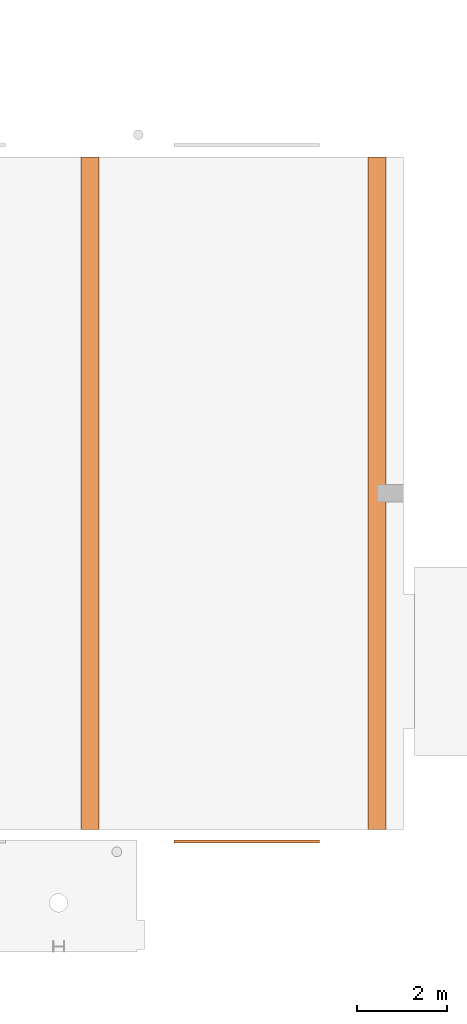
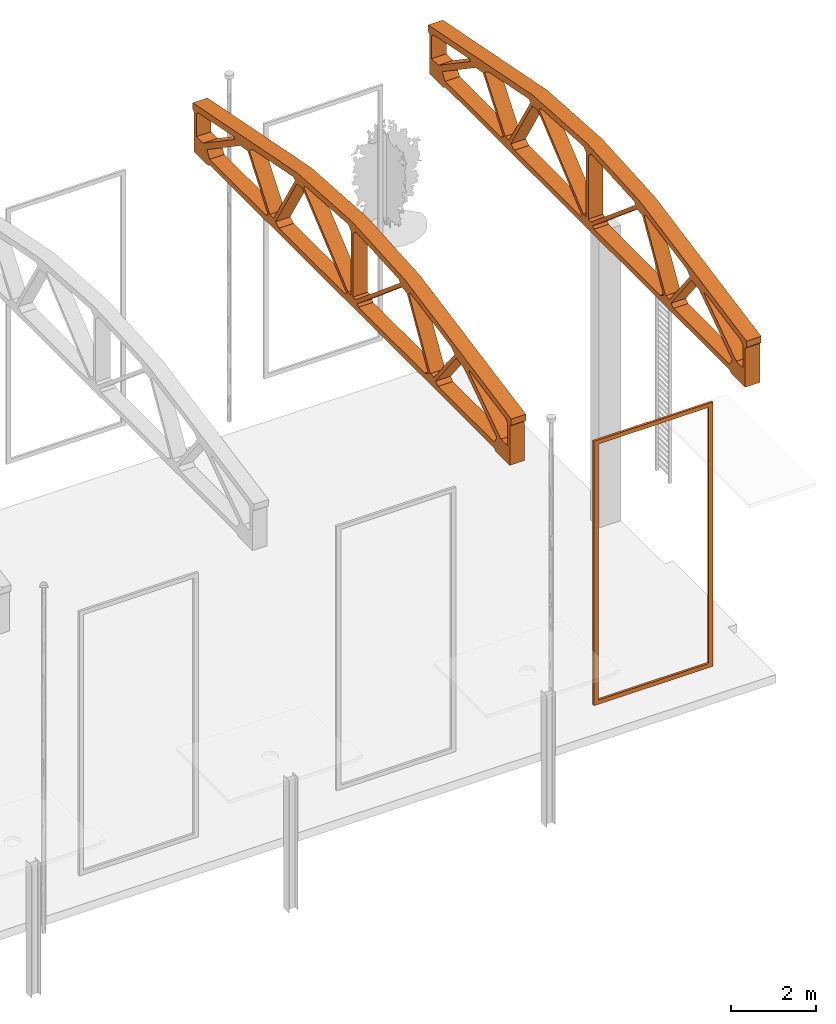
# One storey, part 13 of 14: 3 proxies.
"""IFC2X3 building model written with IfcOpenShell, lengths in millimetres."""

from ifc_helpers import new_model, entity, si_unit, converted_unit, derived_unit, direction, frame, origin, place, context, subcontext, project, spatial, polyline, outline, extrude, source, transform, mapped, material, type_object, type_shapes, element, save


model = new_model("IFC2X3")

# Units and contexts
model_context = context("Model", 3, precision=0.01, world=origin(), true_north=direction((6.12303176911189e-17, 1.0)))
body_context = subcontext(model_context, "Body", "Model", "MODEL_VIEW")
ifc_project = project(units=[si_unit("LENGTHUNIT", "METRE", prefix="MILLI"), si_unit("AREAUNIT", "SQUARE_METRE"), si_unit("VOLUMEUNIT", "CUBIC_METRE"), converted_unit("PLANEANGLEUNIT", "DEGREE", entity("IfcRatioMeasure", 0.0174532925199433), si_unit("PLANEANGLEUNIT", "RADIAN"), dimensions=[0, 0, 0, 0, 0, 0, 0]), si_unit("MASSUNIT", "GRAM", prefix="KILO"), derived_unit("MASSDENSITYUNIT", [(si_unit("MASSUNIT", "GRAM", prefix="KILO"), 1), (si_unit("LENGTHUNIT", "METRE"), -3)]), si_unit("TIMEUNIT", "SECOND"), si_unit("FREQUENCYUNIT", "HERTZ"), si_unit("THERMODYNAMICTEMPERATUREUNIT", "DEGREE_CELSIUS"), derived_unit("THERMALTRANSMITTANCEUNIT", [(si_unit("MASSUNIT", "GRAM", prefix="KILO"), 1), (si_unit("THERMODYNAMICTEMPERATUREUNIT", "KELVIN"), -1), (si_unit("TIMEUNIT", "SECOND"), -3)]), derived_unit("VOLUMETRICFLOWRATEUNIT", [(si_unit("LENGTHUNIT", "METRE"), 3), (si_unit("TIMEUNIT", "SECOND"), -1)]), si_unit("ELECTRICCURRENTUNIT", "AMPERE"), si_unit("ELECTRICVOLTAGEUNIT", "VOLT"), si_unit("POWERUNIT", "WATT"), si_unit("FORCEUNIT", "NEWTON", prefix="KILO"), si_unit("ILLUMINANCEUNIT", "LUX"), si_unit("LUMINOUSFLUXUNIT", "LUMEN"), si_unit("LUMINOUSINTENSITYUNIT", "CANDELA"), derived_unit("USERDEFINED", [(si_unit("MASSUNIT", "GRAM", prefix="KILO"), -1), (si_unit("LENGTHUNIT", "METRE"), -2), (si_unit("TIMEUNIT", "SECOND"), 3), (si_unit("LUMINOUSFLUXUNIT", "LUMEN"), 1)]), derived_unit("LINEARVELOCITYUNIT", [(si_unit("LENGTHUNIT", "METRE"), 1), (si_unit("TIMEUNIT", "SECOND"), -1)]), si_unit("PRESSUREUNIT", "PASCAL"), derived_unit("USERDEFINED", [(si_unit("LENGTHUNIT", "METRE"), -2), (si_unit("MASSUNIT", "GRAM", prefix="KILO"), 1), (si_unit("TIMEUNIT", "SECOND"), -2)])], contexts=[model_context])

# Site, building, storey
site_placement = place(None, origin())
site = spatial("IfcSite", under=ifc_project, at=site_placement, Name="表面", CompositionType="ELEMENT")
building_placement = place(site_placement, origin())
building = spatial("IfcBuilding", under=site, at=building_placement, CompositionType="ELEMENT")
storey_placement = place(building_placement, origin())
storey = spatial("IfcBuildingStorey", under=building, at=storey_placement, Name="±0.000", CompositionType="ELEMENT", Elevation=0.0)

# Proxies
ifc_material_1 = material(Name="钢架")
building_element_proxy_type_1 = type_object("IfcBuildingElementProxyType", Name="钢架", PredefinedType="NOTDEFINED", material=ifc_material_1)
shared_shape_1 = source(origin(), body_context, "Body", "SweptSolid", [
    extrude(outline(polyline([(5365.60494768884, -5157.24800747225), (5456.9902216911, -5157.24800747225), (5582.8288750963, -5031.40935406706), (2734.74006467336, -808.944048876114), (1081.02925071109, 1073.38849692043), (-860.892399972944, 2779.45092503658), (-5023.76860027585, 5575.18812130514), (-5150.98625221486, 5447.97046936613), (-5149.60725368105, 5357.96419389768), (-5944.34309586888, 4563.22835170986), (-5473.86453543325, 4092.74979127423), (-5388.04612413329, 4092.74979127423), (4099.05525115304, -5394.35158401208), (4100.39054506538, -5481.50528922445), (4570.86910550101, -5951.98384966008), (5365.60494768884, -5157.24800747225)]), holes=[polyline([(2080.17644422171, -3019.41582292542), (1903.3815773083, -2969.47962047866), (-312.516618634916, -753.581424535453), (-307.696571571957, -667.767979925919), (2405.15225183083, -902.84956055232), (2566.25060345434, -1105.85622888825), (2080.17644422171, -3019.41582292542)]), polyline([(2410.67898297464, -804.454704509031), (-302.169840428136, -569.37312388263), (-396.501496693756, -475.041467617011), (895.303368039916, 816.763397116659), (1071.52445367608, 814.063489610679), (2415.65365014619, -715.888489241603), (2410.67898297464, -804.454704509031)]), polyline([(824.404150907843, 887.662614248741), (-467.400713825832, -404.142250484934), (-561.732370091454, -309.810594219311), (-796.813950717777, 2403.03822918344), (-708.247735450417, 2408.01289635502), (821.704243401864, 1063.8836998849), (824.404150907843, 887.662614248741)]), polyline([(-660.127226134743, -315.337325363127), (-745.940670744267, -320.157372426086), (-2961.8388666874, 1895.74082351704), (-3011.7750691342, 2072.53569043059), (-1098.215475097, 2558.60984966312), (-895.208806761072, 2397.5114980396), (-660.127226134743, -315.337325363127)]), polyline([(-1125.26669554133, 2654.38238910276), (-3038.8262895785, 2168.30822987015), (-3165.92863425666, 2295.41057454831), (-2966.18860298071, 3866.5253133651), (-2759.14425623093, 3833.98711637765), (-1152.70066928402, 2751.5100339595), (-1125.26669554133, 2654.38238910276)]), polyline([(5310.14502256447, -4946.12903504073), (5311.96128515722, -5064.67523160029), (4848.72490296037, -5527.91161379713), (4627.03739614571, -5306.22410698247), (4284.43096880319, -3510.00639039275), (4336.75773352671, -3501.57949816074), (5310.14502256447, -4946.12903504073)]), polyline([(4444.43004158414, -5222.45135972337), (4211.00422062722, -5277.1022637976), (2339.5189258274, -3405.61696899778), (2318.4499702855, -3271.55274477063), (3889.56470910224, -3071.8127134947), (4090.0993156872, -3364.76546537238), (4444.43004158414, -5222.45135972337)]), polyline([(3874.16606715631, -2973.82935677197), (2303.05132833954, -3173.5693880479), (2175.94898366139, -3046.46704336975), (2662.02314289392, -1132.90744933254), (2758.82600220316, -1160.24968649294), (3841.37881299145, -2765.20023012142), (3874.16606715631, -2973.82935677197)]), polyline([(-3263.91199097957, 2310.80921649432), (-3397.97621520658, 2331.87817203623), (-5269.4615100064, 4203.36346683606), (-5214.8106059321, 4436.78928779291), (-3357.12471158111, 4082.45856189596), (-3064.17195970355, 3881.92395531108), (-3263.91199097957, 2310.80921649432)]), polyline([(-3502.36563660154, 4276.79021501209), (-5298.58335319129, 4619.39664235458), (-5520.27086000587, 4841.08414916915), (-5057.03447780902, 5304.32053136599), (-4938.48828124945, 5302.50426877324), (-3493.93874436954, 4329.11697973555), (-3502.36563660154, 4276.79021501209)])]), frame((414.00813522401, -400.0, 976.595601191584), z_axis=(0.0, 1.0, 0.0), x_axis=(-0.707106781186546, 0.0, 0.707106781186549)), (0.0, 0.0, 1.0), 400.0),
])
type_shapes(building_element_proxy_type_1, [shared_shape_1])
for number, where, z_axis, x_axis in (
    (1, (2771.20121859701, 7701.08910112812, 8500.0), (0.0, 0.0, 1.0), (0.0, 1.0, 0.0)),
    (2, (9172.20121859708, 7701.0891011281, 8500.0), (0.0, 0.0, 1.0), (0.0, 1.0, 0.0)),
):
    element("IfcBuildingElementProxy", number, at=place(storey_placement, frame(where, z_axis=z_axis, x_axis=x_axis)), inside=storey, type_object=building_element_proxy_type_1, material=ifc_material_1, Name="钢架:钢架", ObjectType="钢架", context=body_context, shape_type="MappedRepresentation", body=[
        mapped(shared_shape_1, transform((0.0, 0.0, 0.0), scale=1.0)),
    ])
ifc_material_2 = material(Name="砖石建筑 - 瓷砖")
building_element_proxy_type_2 = type_object("IfcBuildingElementProxyType", Name="3mX7360", PredefinedType="NOTDEFINED", material=ifc_material_2)
shared_shape_2 = source(origin(), body_context, "Body", "SweptSolid", [
    extrude(outline(polyline([(-1620.0, -3800.0), (1620.0, -3800.0), (1620.0, 3800.0), (-1620.0, 3800.0), (-1620.0, -3800.0)]), holes=[polyline([(-1500.0, -3680.0), (-1500.0, 3680.0), (1500.0, 3680.0), (1500.0, -3680.0), (-1500.0, -3680.0)])]), frame((125.0, -180.0, 4159.66314124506), z_axis=(0.0, 1.0, 0.0), x_axis=(1.0, 0.0, 0.0)), (0.0, 0.0, 1.0), 60.0),
])
type_shapes(building_element_proxy_type_2, [shared_shape_2])
proxy_placement = place(storey_placement, frame((6346.20121859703, 489.697407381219, 720.336858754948)))
element("IfcBuildingElementProxy", 3, at=proxy_placement, inside=storey, type_object=building_element_proxy_type_2, material=ifc_material_2, Name="基于墙的墙面装饰:3mX7360", ObjectType="3mX7360", context=body_context, shape_type="MappedRepresentation", body=[
    mapped(shared_shape_2, transform((0.0, 0.0, 0.0), scale=1.0)),
])

save(model, "model.ifc")
